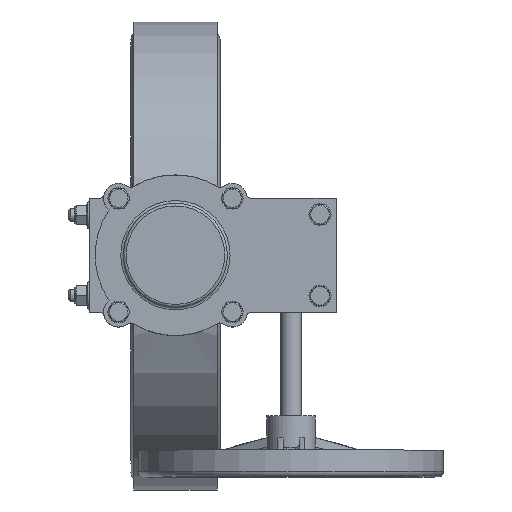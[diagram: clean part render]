
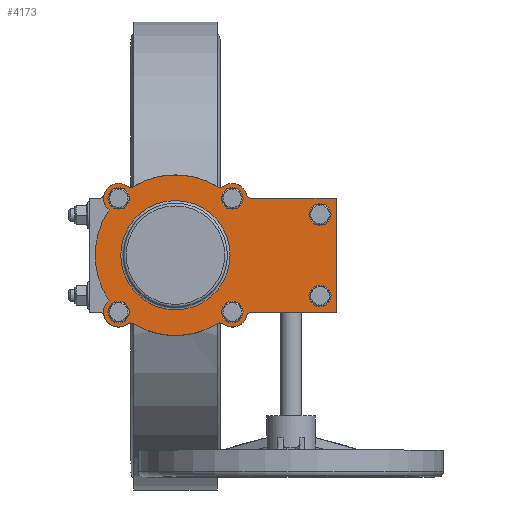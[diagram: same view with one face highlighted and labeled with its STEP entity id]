
A CAD part, top view. The second image highlights one B-rep face of the part: STEP entity #4173.
In plain terms, the highlighted planar face has unit normal (0, 0, 1).
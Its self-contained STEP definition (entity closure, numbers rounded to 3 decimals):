
#4173=ADVANCED_FACE('',(#8407,#8409,#8411,#8413,#8415,#8417,#8419,#8421),#8423,.T.);
#8407=FACE_BOUND('',#8408,.T.);
#8408=EDGE_LOOP('',(#15341,#15342,#15343,#15344,#15345,#15346,#15347,#15348,#15349,
#15350,#15351,#15352,#15353,#15354,#15355,#15356));
#8409=FACE_BOUND('',#8410,.T.);
#8410=EDGE_LOOP('',(#15357));
#8411=FACE_BOUND('',#8412,.T.);
#8412=EDGE_LOOP('',(#15358));
#8413=FACE_BOUND('',#8414,.T.);
#8414=EDGE_LOOP('',(#15359));
#8415=FACE_BOUND('',#8416,.T.);
#8416=EDGE_LOOP('',(#15360));
#8417=FACE_BOUND('',#8418,.T.);
#8418=EDGE_LOOP('',(#15361));
#8419=FACE_BOUND('',#8420,.T.);
#8420=EDGE_LOOP('',(#15362));
#8421=FACE_BOUND('',#8422,.T.);
#8422=EDGE_LOOP('',(#15363));
#8423=PLANE('',#8424);
#8424=AXIS2_PLACEMENT_3D('',#8425,#8426,#8427);
#8425=CARTESIAN_POINT('',(0.,0.,5.));
#8426=DIRECTION('',(0.,0.,1.));
#8427=DIRECTION('',(0.,1.,0.));
#15341=ORIENTED_EDGE('',*,*,#17246,.T.);
#15342=ORIENTED_EDGE('',*,*,#17247,.T.);
#15343=ORIENTED_EDGE('',*,*,#17248,.T.);
#15344=ORIENTED_EDGE('',*,*,#17249,.T.);
#15345=ORIENTED_EDGE('',*,*,#17250,.T.);
#15346=ORIENTED_EDGE('',*,*,#17251,.T.);
#15347=ORIENTED_EDGE('',*,*,#17252,.T.);
#15348=ORIENTED_EDGE('',*,*,#17253,.T.);
#15349=ORIENTED_EDGE('',*,*,#17254,.T.);
#15350=ORIENTED_EDGE('',*,*,#17255,.T.);
#15351=ORIENTED_EDGE('',*,*,#17256,.T.);
#15352=ORIENTED_EDGE('',*,*,#17257,.T.);
#15353=ORIENTED_EDGE('',*,*,#17258,.T.);
#15354=ORIENTED_EDGE('',*,*,#17259,.T.);
#15355=ORIENTED_EDGE('',*,*,#17260,.T.);
#15356=ORIENTED_EDGE('',*,*,#17261,.T.);
#15357=ORIENTED_EDGE('',*,*,#17262,.T.);
#15358=ORIENTED_EDGE('',*,*,#17263,.T.);
#15359=ORIENTED_EDGE('',*,*,#17264,.T.);
#15360=ORIENTED_EDGE('',*,*,#17265,.T.);
#15361=ORIENTED_EDGE('',*,*,#17266,.T.);
#15362=ORIENTED_EDGE('',*,*,#17267,.T.);
#15363=ORIENTED_EDGE('',*,*,#17268,.F.);
#17246=EDGE_CURVE('',#19621,#19622,#19623,.T.);
#17247=EDGE_CURVE('',#19622,#19624,#19625,.T.);
#17248=EDGE_CURVE('',#19624,#19626,#19627,.T.);
#17249=EDGE_CURVE('',#19626,#19628,#19629,.T.);
#17250=EDGE_CURVE('',#19628,#19630,#19631,.T.);
#17251=EDGE_CURVE('',#19630,#19632,#19633,.T.);
#17252=EDGE_CURVE('',#19632,#19634,#19635,.T.);
#17253=EDGE_CURVE('',#19634,#19636,#19637,.T.);
#17254=EDGE_CURVE('',#19636,#19638,#19639,.T.);
#17255=EDGE_CURVE('',#19638,#19640,#19641,.T.);
#17256=EDGE_CURVE('',#19640,#19642,#19643,.T.);
#17257=EDGE_CURVE('',#19642,#19644,#19645,.T.);
#17258=EDGE_CURVE('',#19644,#19646,#19647,.T.);
#17259=EDGE_CURVE('',#19646,#19648,#19649,.T.);
#17260=EDGE_CURVE('',#19648,#19650,#19651,.T.);
#17261=EDGE_CURVE('',#19650,#19621,#19652,.T.);
#17262=EDGE_CURVE('',#19653,#19653,#19654,.F.);
#17263=EDGE_CURVE('',#19655,#19655,#19656,.F.);
#17264=EDGE_CURVE('',#19657,#19657,#19658,.F.);
#17265=EDGE_CURVE('',#19659,#19659,#19660,.F.);
#17266=EDGE_CURVE('',#19661,#19661,#19662,.F.);
#17267=EDGE_CURVE('',#19663,#19663,#19664,.F.);
#17268=EDGE_CURVE('',#19665,#19665,#19666,.T.);
#19621=VERTEX_POINT('',#27197);
#19622=VERTEX_POINT('',#27198);
#19623=CIRCLE('',#27199,5.);
#19624=VERTEX_POINT('',#27203);
#19625=CIRCLE('',#27204,14.);
#19626=VERTEX_POINT('',#27208);
#19627=CIRCLE('',#27209,5.);
#19628=VERTEX_POINT('',#27213);
#19629=LINE('',#27214,#27215);
#19630=VERTEX_POINT('',#27217);
#19631=LINE('',#27218,#27219);
#19632=VERTEX_POINT('',#27221);
#19633=LINE('',#27222,#27223);
#19634=VERTEX_POINT('',#27225);
#19635=CIRCLE('',#27226,5.);
#19636=VERTEX_POINT('',#27230);
#19637=CIRCLE('',#27231,14.);
#19638=VERTEX_POINT('',#27235);
#19639=CIRCLE('',#27236,5.);
#19640=VERTEX_POINT('',#27240);
#19641=CIRCLE('',#27241,75.);
#19642=VERTEX_POINT('',#27245);
#19643=CIRCLE('',#27246,5.);
#19644=VERTEX_POINT('',#27250);
#19645=CIRCLE('',#27251,14.);
#19646=VERTEX_POINT('',#27255);
#19647=CIRCLE('',#27256,75.);
#19648=VERTEX_POINT('',#27260);
#19649=CIRCLE('',#27261,14.);
#19650=VERTEX_POINT('',#27265);
#19651=CIRCLE('',#27266,5.);
#19652=CIRCLE('',#27270,75.);
#19653=VERTEX_POINT('',#27274);
#19654=CIRCLE('',#27275,6.);
#19655=VERTEX_POINT('',#27279);
#19656=CIRCLE('',#27280,6.);
#19657=VERTEX_POINT('',#27284);
#19658=CIRCLE('',#27285,6.);
#19659=VERTEX_POINT('',#27289);
#19660=CIRCLE('',#27290,6.);
#19661=VERTEX_POINT('',#27294);
#19662=CIRCLE('',#27295,6.);
#19663=VERTEX_POINT('',#27299);
#19664=CIRCLE('',#27300,6.);
#19665=VERTEX_POINT('',#27304);
#19666=CIRCLE('',#27305,51.);
#27197=CARTESIAN_POINT('',(64.01,39.086,5.));
#27198=CARTESIAN_POINT('',(64.266,44.677,5.));
#27199=AXIS2_PLACEMENT_3D('',#27200,#27201,#27202);
#27200=CARTESIAN_POINT('',(68.277,41.692,5.));
#27201=DIRECTION('',(0.,0.,-1.));
#27202=DIRECTION('',(-0.853,-0.521,0.));
#27203=CARTESIAN_POINT('',(56.717,66.54,5.));
#27204=AXIS2_PLACEMENT_3D('',#27205,#27206,#27207);
#27205=CARTESIAN_POINT('',(53.033,53.033,5.));
#27206=DIRECTION('',(0.,0.,1.));
#27207=DIRECTION('',(0.802,-0.597,0.));
#27208=CARTESIAN_POINT('',(53.033,71.363,5.));
#27209=AXIS2_PLACEMENT_3D('',#27210,#27211,#27212);
#27210=CARTESIAN_POINT('',(58.033,71.363,5.));
#27211=DIRECTION('',(0.,0.,-1.));
#27212=DIRECTION('',(-0.263,-0.965,0.));
#27213=CARTESIAN_POINT('',(53.033,150.,5.));
#27214=CARTESIAN_POINT('',(53.033,71.363,5.));
#27215=VECTOR('',#27216,1.);
#27216=DIRECTION('',(0.,1.,0.));
#27217=CARTESIAN_POINT('',(-53.033,150.,5.));
#27218=CARTESIAN_POINT('',(53.033,150.,5.));
#27219=VECTOR('',#27220,1.);
#27220=DIRECTION('',(-1.,0.,0.));
#27221=CARTESIAN_POINT('',(-53.033,71.363,5.));
#27222=CARTESIAN_POINT('',(-53.033,150.,5.));
#27223=VECTOR('',#27224,1.);
#27224=DIRECTION('',(0.,-1.,0.));
#27225=CARTESIAN_POINT('',(-56.717,66.54,5.));
#27226=AXIS2_PLACEMENT_3D('',#27227,#27228,#27229);
#27227=CARTESIAN_POINT('',(-58.033,71.363,5.));
#27228=DIRECTION('',(0.,0.,-1.));
#27229=DIRECTION('',(1.,0.,0.));
#27230=CARTESIAN_POINT('',(-64.266,44.677,5.));
#27231=AXIS2_PLACEMENT_3D('',#27232,#27233,#27234);
#27232=CARTESIAN_POINT('',(-53.033,53.033,5.));
#27233=DIRECTION('',(0.,0.,1.));
#27234=DIRECTION('',(-0.263,0.965,0.));
#27235=CARTESIAN_POINT('',(-64.01,39.086,5.));
#27236=AXIS2_PLACEMENT_3D('',#27237,#27238,#27239);
#27237=CARTESIAN_POINT('',(-68.277,41.692,5.));
#27238=DIRECTION('',(0.,0.,-1.));
#27239=DIRECTION('',(0.802,0.597,0.));
#27240=CARTESIAN_POINT('',(-64.01,-39.086,5.));
#27241=AXIS2_PLACEMENT_3D('',#27242,#27243,#27244);
#27242=CARTESIAN_POINT('',(0.,0.,5.));
#27243=DIRECTION('',(0.,0.,1.));
#27244=DIRECTION('',(-0.853,0.521,0.));
#27245=CARTESIAN_POINT('',(-64.266,-44.677,5.));
#27246=AXIS2_PLACEMENT_3D('',#27247,#27248,#27249);
#27247=CARTESIAN_POINT('',(-68.277,-41.692,5.));
#27248=DIRECTION('',(0.,0.,-1.));
#27249=DIRECTION('',(0.853,0.521,0.));
#27250=CARTESIAN_POINT('',(-42.253,-61.965,5.));
#27251=AXIS2_PLACEMENT_3D('',#27252,#27253,#27254);
#27252=CARTESIAN_POINT('',(-53.033,-53.033,5.));
#27253=DIRECTION('',(0.,0.,1.));
#27254=DIRECTION('',(-0.802,0.597,0.));
#27255=CARTESIAN_POINT('',(42.253,-61.965,5.));
#27256=AXIS2_PLACEMENT_3D('',#27257,#27258,#27259);
#27257=CARTESIAN_POINT('',(0.,0.,5.));
#27258=DIRECTION('',(0.,0.,1.));
#27259=DIRECTION('',(-0.563,-0.826,0.));
#27260=CARTESIAN_POINT('',(64.266,-44.677,5.));
#27261=AXIS2_PLACEMENT_3D('',#27262,#27263,#27264);
#27262=CARTESIAN_POINT('',(53.033,-53.033,5.));
#27263=DIRECTION('',(0.,0.,1.));
#27264=DIRECTION('',(-0.77,-0.638,0.));
#27265=CARTESIAN_POINT('',(64.01,-39.086,5.));
#27266=AXIS2_PLACEMENT_3D('',#27267,#27268,#27269);
#27267=CARTESIAN_POINT('',(68.277,-41.692,5.));
#27268=DIRECTION('',(0.,0.,-1.));
#27269=DIRECTION('',(-0.802,-0.597,0.));
#27270=AXIS2_PLACEMENT_3D('',#27271,#27272,#27273);
#27271=CARTESIAN_POINT('',(0.,0.,5.));
#27272=DIRECTION('',(0.,0.,1.));
#27273=DIRECTION('',(0.853,-0.521,0.));
#27274=CARTESIAN_POINT('',(-32.033,135.,5.));
#27275=AXIS2_PLACEMENT_3D('',#27276,#27277,#27278);
#27276=CARTESIAN_POINT('',(-38.033,135.,5.));
#27277=DIRECTION('',(0.,0.,1.));
#27278=DIRECTION('',(1.,0.,0.));
#27279=CARTESIAN_POINT('',(44.033,135.,5.));
#27280=AXIS2_PLACEMENT_3D('',#27281,#27282,#27283);
#27281=CARTESIAN_POINT('',(38.033,135.,5.));
#27282=DIRECTION('',(0.,0.,1.));
#27283=DIRECTION('',(1.,0.,0.));
#27284=CARTESIAN_POINT('',(53.033,59.033,5.));
#27285=AXIS2_PLACEMENT_3D('',#27286,#27287,#27288);
#27286=CARTESIAN_POINT('',(53.033,53.033,5.));
#27287=DIRECTION('',(0.,0.,1.));
#27288=DIRECTION('',(0.,1.,0.));
#27289=CARTESIAN_POINT('',(59.033,-53.033,5.));
#27290=AXIS2_PLACEMENT_3D('',#27291,#27292,#27293);
#27291=CARTESIAN_POINT('',(53.033,-53.033,5.));
#27292=DIRECTION('',(0.,0.,1.));
#27293=DIRECTION('',(1.,0.,0.));
#27294=CARTESIAN_POINT('',(-53.033,-59.033,5.));
#27295=AXIS2_PLACEMENT_3D('',#27296,#27297,#27298);
#27296=CARTESIAN_POINT('',(-53.033,-53.033,5.));
#27297=DIRECTION('',(0.,0.,1.));
#27298=DIRECTION('',(0.,-1.,0.));
#27299=CARTESIAN_POINT('',(-59.033,53.033,5.));
#27300=AXIS2_PLACEMENT_3D('',#27301,#27302,#27303);
#27301=CARTESIAN_POINT('',(-53.033,53.033,5.));
#27302=DIRECTION('',(0.,0.,1.));
#27303=DIRECTION('',(-1.,0.,0.));
#27304=CARTESIAN_POINT('',(-51.,0.,5.));
#27305=AXIS2_PLACEMENT_3D('',#27306,#27307,#27308);
#27306=CARTESIAN_POINT('',(0.,0.,5.));
#27307=DIRECTION('',(0.,0.,1.));
#27308=DIRECTION('',(-1.,0.,0.));
